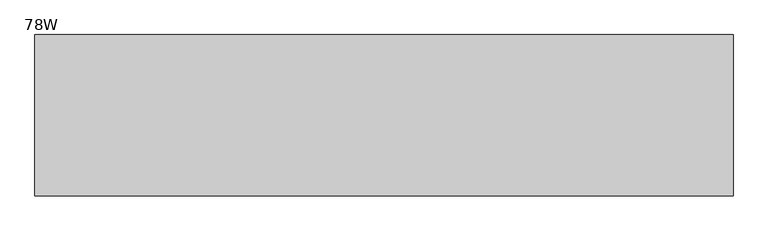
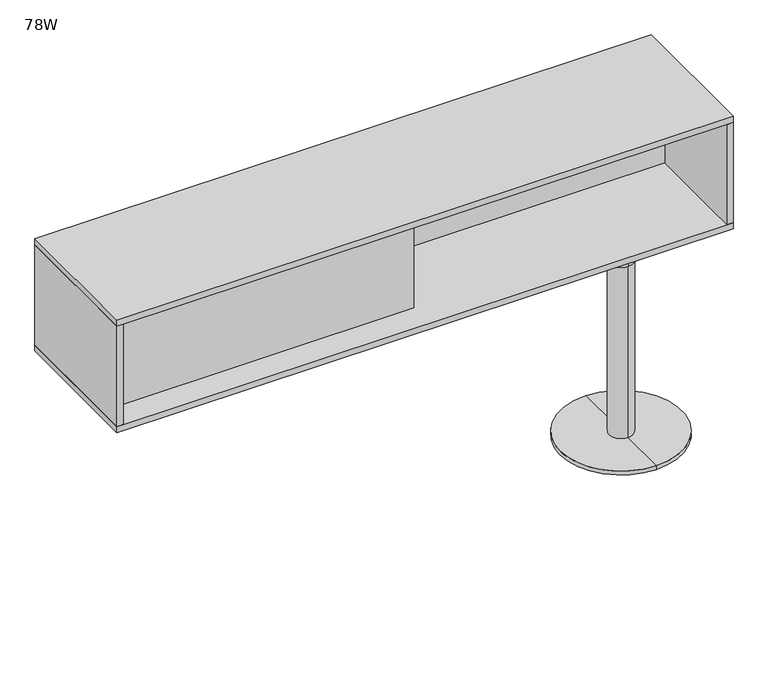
"""IFC4 building model written with IfcOpenShell, lengths in millimetres: furniture geometry, Steelcase - Duo Storage - For Use with Answer Junction - Tall Storage with Leg - Shared : 78W."""

from ifc_helpers import new_model, si_unit, frame, origin, place, context, project, spatial, polyline, circle_curve, outline, extrude, source, transform, mapped, element, save
from ifc_brep_helpers import plane_surface, cylinder_surface, advanced_brep


def furniture_78w_5b03bcda(model_context):
    return source(origin(), model_context, "Body", "SolidModel", [
        advanced_brep(
        [(1752.6, 196.1389534, 0.0), (1752.6, -196.1389534, 0.0), (1752.6, -196.1389534, 12.7), (1752.6, 196.1389534, 12.7), (1752.6, 0.0, 0.0), (1752.6, 41.4195882, 758.952), (1752.6, -41.4195882, 758.952), (1752.6, 0.0, 758.952), (1752.6, 41.4195882, 596.9), (1752.6, -41.4195882, 596.9), (1752.6, 38.1, 596.9), (1752.6, -38.1, 596.9), (1752.6, 38.1, 12.7), (1752.6, -38.1, 12.7)],
        [
            (0, 1, circle_curve(frame((1752.6, 0.0, 0.0), z_axis=(0.0, 0.0, 1.0), x_axis=(0.0, -1.0, 0.0)), 196.1389534)),
            (1, 2),
            (2, 3, circle_curve(frame((1752.6, 0.0, 12.7), z_axis=(0.0, 0.0, -1.0), x_axis=(0.0, -1.0, 0.0)), 196.1389534)),
            (3, 0),
            (1, 0, circle_curve(frame((1752.6, 0.0, 0.0), z_axis=(0.0, 0.0, 1.0), x_axis=(0.0, -1.0, 0.0)), 196.1389534)),
            (3, 2, circle_curve(frame((1752.6, 0.0, 12.7), z_axis=(0.0, 0.0, -1.0), x_axis=(0.0, -1.0, 0.0)), 196.1389534)),
            (4, 1),
            (0, 4),
            (5, 6, circle_curve(frame((1752.6, 0.0, 758.952), z_axis=(0.0, 0.0, 1.0), x_axis=(0.0, -1.0, 0.0)), 41.4195882)),
            (6, 7),
            (7, 5),
            (6, 5, circle_curve(frame((1752.6, 0.0, 758.952), z_axis=(0.0, 0.0, 1.0), x_axis=(0.0, -1.0, 0.0)), 41.4195882)),
            (8, 9, circle_curve(frame((1752.6, 0.0, 596.9), z_axis=(0.0, 0.0, 1.0), x_axis=(0.0, -1.0, 0.0)), 41.4195882)),
            (9, 6),
            (5, 8),
            (9, 8, circle_curve(frame((1752.6, 0.0, 596.9), z_axis=(0.0, 0.0, 1.0), x_axis=(0.0, -1.0, 0.0)), 41.4195882)),
            (10, 11, circle_curve(frame((1752.6, 0.0, 596.9), z_axis=(0.0, 0.0, 1.0), x_axis=(0.0, -1.0, 0.0)), 38.1)),
            (11, 9),
            (8, 10),
            (11, 10, circle_curve(frame((1752.6, 0.0, 596.9), z_axis=(0.0, 0.0, 1.0), x_axis=(0.0, -1.0, 0.0)), 38.1)),
            (12, 13, circle_curve(frame((1752.6, 0.0, 12.7), z_axis=(0.0, 0.0, 1.0), x_axis=(0.0, -1.0, 0.0)), 38.1)),
            (13, 11),
            (10, 12),
            (13, 12, circle_curve(frame((1752.6, 0.0, 12.7), z_axis=(0.0, 0.0, 1.0), x_axis=(0.0, -1.0, 0.0)), 38.1)),
            (2, 13),
            (12, 3),
        ],
        [
            cylinder_surface(frame((1752.6, 0.0, 581.025), z_axis=(0.0, 0.0, -1.0), x_axis=(0.0, -1.0, 0.0)), 196.1389534),
            plane_surface(frame((1752.6, 0.0, 0.0), z_axis=(0.0, 0.0, -1.0), x_axis=(0.0, -1.0, 0.0))),
            plane_surface(frame((1752.6, 0.0, 758.952), z_axis=(0.0, 0.0, 1.0), x_axis=(0.0, -1.0, 0.0))),
            cylinder_surface(frame((1752.6, 0.0, 581.025), z_axis=(0.0, 0.0, -1.0), x_axis=(0.0, -1.0, 0.0)), 41.4195882),
            plane_surface(frame((1752.6, 0.0, 596.9), z_axis=(0.0, 0.0, -1.0), x_axis=(0.0, -1.0, 0.0))),
            cylinder_surface(frame((1752.6, 0.0, 581.025), z_axis=(0.0, 0.0, -1.0), x_axis=(0.0, -1.0, 0.0)), 38.1),
            plane_surface(frame((1752.6, 0.0, 12.7), z_axis=(0.0, 0.0, 1.0), x_axis=(0.0, -1.0, 0.0))),
        ],
        [
            (0, [[1, 2, 3, 4]]),
            (0, [[5, -4, 6, -2]]),
            (1, [[7, -1, 8]]),
            (1, [[-8, -5, -7]]),
            (2, [[9, 10, 11]]),
            (2, [[12, -11, -10]]),
            (3, [[13, 14, -9, 15]]),
            (3, [[16, -15, -12, -14]]),
            (4, [[17, 18, -13, 19]]),
            (4, [[20, -19, -16, -18]]),
            (5, [[21, 22, -17, 23]]),
            (5, [[24, -23, -20, -22]]),
            (6, [[-3, 25, -21, 26]]),
            (6, [[-6, -26, -24, -25]]),
        ],
    ),
        extrude(outline(polyline([(20.32, -143.5099817), (20.32, -116.6876), (977.1886649, -116.6876), (977.1886649, 143.5100085), (1960.8797287, 143.5100085), (1960.8797287, 116.6876268), (1004.0110466, 116.6876268), (1004.0110466, -143.5099817), (20.32, -143.5099817)])), frame((0.0, 0.0, 779.8307207), z_axis=(0.0, 0.0, 1.0), x_axis=(1.0, 0.0, 0.0)), (0.0, 0.0, 1.0), 339.8012793),
        extrude(outline(polyline([(1981.2, 228.6), (1981.2, -228.6), (1960.8797287, -228.6), (1960.8797287, 228.6), (1981.2, 228.6)])), frame((0.0, 0.0, 779.2719806), z_axis=(0.0, 0.0, 1.0), x_axis=(1.0, 0.0, 0.0)), (0.0, 0.0, 1.0), 340.3600194),
        extrude(outline(polyline([(20.32, 228.6), (20.32, -228.6), (0.0, -228.6), (0.0, 228.6), (20.32, 228.6)])), frame((0.0, 0.0, 779.2719806), z_axis=(0.0, 0.0, 1.0), x_axis=(1.0, 0.0, 0.0)), (0.0, 0.0, 1.0), 340.3600194),
        extrude(outline(polyline([(1981.2, 228.6), (1981.2, -228.6), (0.0, -228.6), (0.0, 228.6), (1981.2, 228.6)])), frame((0.0, 0.0, 1119.632), z_axis=(0.0, 0.0, 1.0), x_axis=(1.0, 0.0, 0.0)), (0.0, 0.0, 1.0), 20.32),
        extrude(outline(polyline([(1981.2, 228.6), (1981.2, -228.6), (0.0, -228.6), (0.0, 228.6), (1981.2, 228.6)])), frame((0.0, 0.0, 758.952), z_axis=(0.0, 0.0, 1.0), x_axis=(1.0, 0.0, 0.0)), (0.0, 0.0, 1.0), 20.3199806),
    ])


if __name__ == "__main__":
    model = new_model("IFC4")
    model_context = context("Model", 3, world=origin())
    ifc_project = project(units=[si_unit("LENGTHUNIT", "METRE", prefix="MILLI")], contexts=[model_context])
    site = spatial("IfcSite", under=ifc_project)
    building = spatial("IfcBuilding", under=site)
    placement = place(None, origin())
    furniture_78w_shape = furniture_78w_5b03bcda(model_context)
    element("IfcFurniture", 1, ObjectType="Steelcase - Duo Storage - For Use with Answer Junction - Tall Storage with Leg - Shared : 78W", at=placement, inside=building, context=model_context, shape_type="MappedRepresentation", body=[
        mapped(furniture_78w_shape, transform((0.0, 0.0, 0.0), x_axis=(1.0, 0.0, 0.0), y_axis=(0.0, 1.0, 0.0), z_axis=(0.0, 0.0, 1.0))),
    ])
    save(model, "model.ifc")
